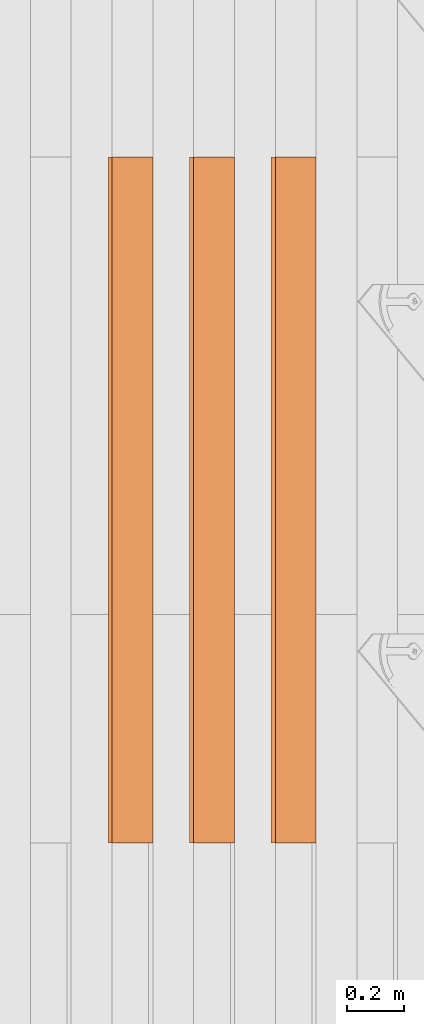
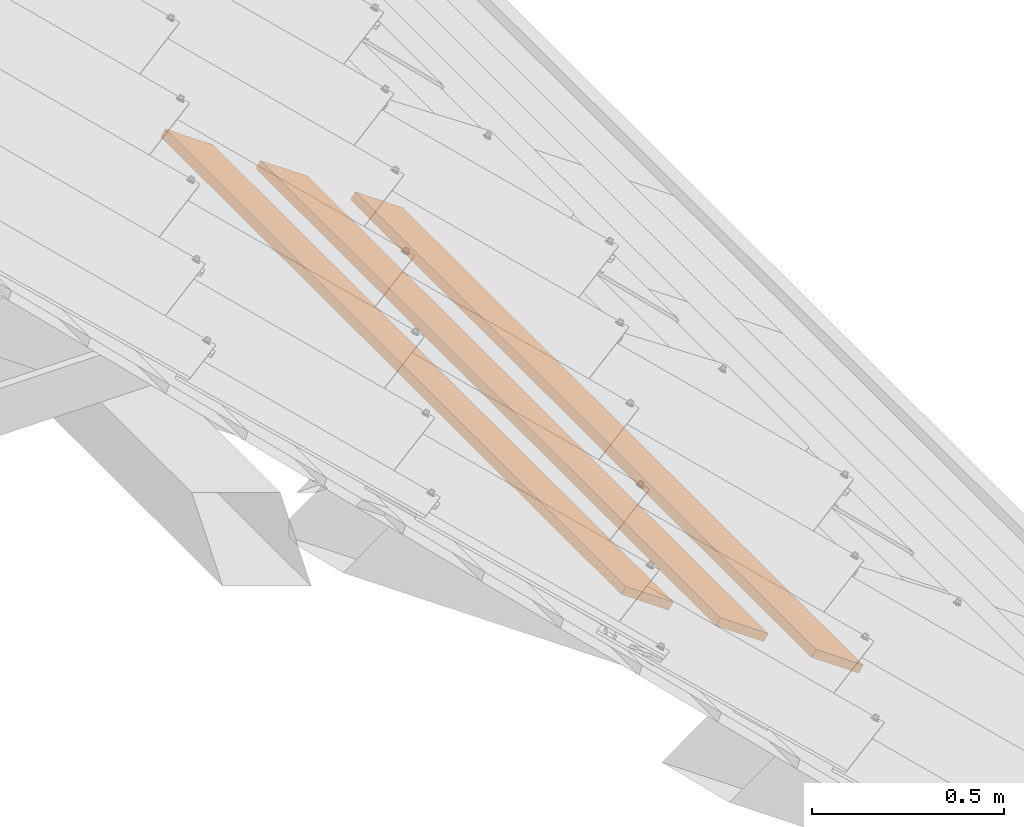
# One storey, part 43 of 151: 3 proxies, 1 element without a shape of its own.
"""IFC2X3 building model written with IfcOpenShell, lengths in millimetres."""

from ifc_helpers import new_model, entity, si_unit, converted_unit, derived_unit, direction, frame, frame_2d, origin, place, context, subcontext, project, spatial, rectangle, extrude, source, transform, mapped, material, type_object, type_shapes, element, aggregate, save


model = new_model("IFC2X3")

# Units and contexts
model_context = context("Model", 3, precision=0.01, world=origin(), true_north=direction((6.12303176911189e-17, 1.0)))
body_context = subcontext(model_context, "Body", "Model", "MODEL_VIEW")
ifc_project = project(units=[si_unit("LENGTHUNIT", "METRE", prefix="MILLI"), si_unit("AREAUNIT", "SQUARE_METRE"), si_unit("VOLUMEUNIT", "CUBIC_METRE"), converted_unit("PLANEANGLEUNIT", "DEGREE", entity("IfcRatioMeasure", 0.0174532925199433), si_unit("PLANEANGLEUNIT", "RADIAN"), dimensions=[0, 0, 0, 0, 0, 0, 0]), si_unit("MASSUNIT", "GRAM", prefix="KILO"), derived_unit("MASSDENSITYUNIT", [(si_unit("MASSUNIT", "GRAM", prefix="KILO"), 1), (si_unit("LENGTHUNIT", "METRE"), -3)]), si_unit("TIMEUNIT", "SECOND"), si_unit("FREQUENCYUNIT", "HERTZ"), si_unit("THERMODYNAMICTEMPERATUREUNIT", "DEGREE_CELSIUS"), derived_unit("THERMALTRANSMITTANCEUNIT", [(si_unit("MASSUNIT", "GRAM", prefix="KILO"), 1), (si_unit("THERMODYNAMICTEMPERATUREUNIT", "KELVIN"), -1), (si_unit("TIMEUNIT", "SECOND"), -3)]), derived_unit("VOLUMETRICFLOWRATEUNIT", [(si_unit("LENGTHUNIT", "METRE"), 3), (si_unit("TIMEUNIT", "SECOND"), -1)]), si_unit("ELECTRICCURRENTUNIT", "AMPERE"), si_unit("ELECTRICVOLTAGEUNIT", "VOLT"), si_unit("POWERUNIT", "WATT"), si_unit("FORCEUNIT", "NEWTON", prefix="KILO"), si_unit("ILLUMINANCEUNIT", "LUX"), si_unit("LUMINOUSFLUXUNIT", "LUMEN"), si_unit("LUMINOUSINTENSITYUNIT", "CANDELA"), derived_unit("USERDEFINED", [(si_unit("MASSUNIT", "GRAM", prefix="KILO"), -1), (si_unit("LENGTHUNIT", "METRE"), -2), (si_unit("TIMEUNIT", "SECOND"), 3), (si_unit("LUMINOUSFLUXUNIT", "LUMEN"), 1)]), derived_unit("LINEARVELOCITYUNIT", [(si_unit("LENGTHUNIT", "METRE"), 1), (si_unit("TIMEUNIT", "SECOND"), -1)]), si_unit("PRESSUREUNIT", "PASCAL"), derived_unit("USERDEFINED", [(si_unit("LENGTHUNIT", "METRE"), -2), (si_unit("MASSUNIT", "GRAM", prefix="KILO"), 1), (si_unit("TIMEUNIT", "SECOND"), -2)])], contexts=[model_context])

# Site, building, storey
site_placement = place(None, origin())
site = spatial("IfcSite", under=ifc_project, at=site_placement, Name="Default", CompositionType="ELEMENT")
building_placement = place(site_placement, origin())
building = spatial("IfcBuilding", under=site, at=building_placement, CompositionType="ELEMENT")
storey_placement = place(building_placement, origin())
storey = spatial("IfcBuildingStorey", under=building, at=storey_placement, Name="Level 1", CompositionType="ELEMENT", Elevation=0.0)

# Assembly, proxies
assembly_placement = place(storey_placement, origin())
assembly = element("IfcElementAssembly", 1, at=assembly_placement, inside=storey, Name="Structural Framing Assembly:Roof Construction Assembly", ObjectType="Structural Framing Assembly:Roof Construction Assembly", AssemblyPlace="NOTDEFINED", PredefinedType="USERDEFINED")
ifc_material = material(Name="Wood - Generic - Wood For Showcase")
building_element_proxy_type_1 = type_object("IfcBuildingElementProxyType", Name="Structural Framing 15", PredefinedType="NOTDEFINED", material=ifc_material)
shared_shape_1 = source(origin(), body_context, "Body", "SweptSolid", [
    extrude(rectangle(XDim=24.9999999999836, YDim=174.344679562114, at=frame_2d((2.22044604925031e-13, -1.63424829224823e-13), x_axis=(1.0, 0.0))), frame((1285.35601305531, 1595.55080214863, 2760.23940055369), z_axis=(0.0, 1.0, 0.0), x_axis=(0.573576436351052, 0.0, 0.819152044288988)), (0.0, 0.0, 1.0), 2400.00000000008),
])
type_shapes(building_element_proxy_type_1, [shared_shape_1])
proxy_1_placement = place(assembly_placement, frame((1914.0802798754, -5740.0, -1300.0)))
proxy_1 = element("IfcBuildingElementProxy", 2, at=proxy_1_placement, type_object=building_element_proxy_type_1, material=ifc_material, Name="Structural Framing 222:Structural Framing 15", ObjectType="Structural Framing 222:Structural Framing 15", context=body_context, shape_type="MappedRepresentation", body=[
    mapped(shared_shape_1, transform((0.0, 0.0, 0.0), scale=1.0)),
])
building_element_proxy_type_2 = type_object("IfcBuildingElementProxyType", Name="Structural Framing 15", PredefinedType="NOTDEFINED", material=ifc_material)
shared_shape_2 = source(origin(), body_context, "Body", "SweptSolid", [
    extrude(rectangle(XDim=24.9999999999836, YDim=174.344679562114, at=frame_2d((2.22044604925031e-13, -1.63424829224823e-13), x_axis=(1.0, 0.0))), frame((1285.35601305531, 1595.55080214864, 2760.23940055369), z_axis=(0.0, 1.0, 0.0), x_axis=(0.573576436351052, 0.0, 0.819152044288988)), (0.0, 0.0, 1.0), 2400.00000000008),
])
type_shapes(building_element_proxy_type_2, [shared_shape_2])
proxy_2_placement = place(assembly_placement, frame((2199.70988122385, -5740.0, -1500.0)))
proxy_2 = element("IfcBuildingElementProxy", 3, at=proxy_2_placement, type_object=building_element_proxy_type_2, material=ifc_material, Name="Structural Framing 232:Structural Framing 15", ObjectType="Structural Framing 232:Structural Framing 15", context=body_context, shape_type="MappedRepresentation", body=[
    mapped(shared_shape_2, transform((0.0, 0.0, 0.0), scale=1.0)),
])
building_element_proxy_type_3 = type_object("IfcBuildingElementProxyType", Name="Structural Framing 15", PredefinedType="NOTDEFINED", material=ifc_material)
shared_shape_3 = source(origin(), body_context, "Body", "SweptSolid", [
    extrude(rectangle(XDim=24.9999999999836, YDim=174.344679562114, at=frame_2d((2.22044604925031e-13, -1.63424829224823e-13), x_axis=(1.0, 0.0))), frame((1285.35601305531, 1595.55080214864, 2760.23940055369), z_axis=(0.0, 1.0, 0.0), x_axis=(0.573576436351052, 0.0, 0.819152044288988)), (0.0, 0.0, 1.0), 2400.00000000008),
])
type_shapes(building_element_proxy_type_3, [shared_shape_3])
proxy_3_placement = place(assembly_placement, frame((2485.3394825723, -5740.0, -1700.0)))
proxy_3 = element("IfcBuildingElementProxy", 4, at=proxy_3_placement, type_object=building_element_proxy_type_3, material=ifc_material, Name="Structural Framing 242:Structural Framing 15", ObjectType="Structural Framing 242:Structural Framing 15", context=body_context, shape_type="MappedRepresentation", body=[
    mapped(shared_shape_3, transform((0.0, 0.0, 0.0), scale=1.0)),
])
aggregate(assembly, [proxy_1, proxy_2, proxy_3])

save(model, "model.ifc")
